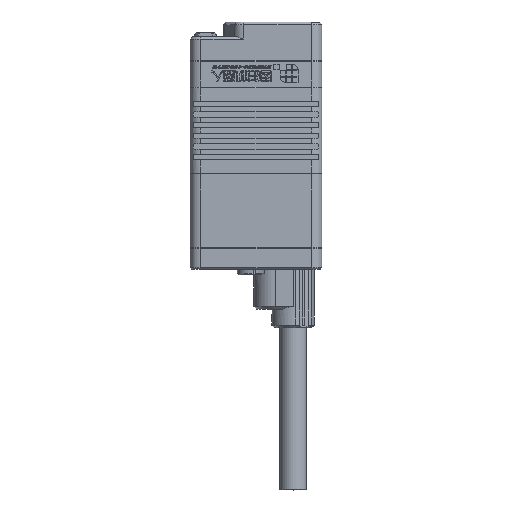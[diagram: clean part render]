
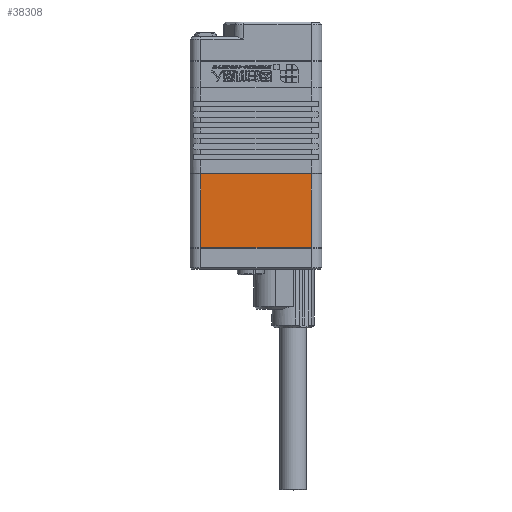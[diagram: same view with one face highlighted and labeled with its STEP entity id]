
A CAD part, top view. The second image highlights one B-rep face of the part: STEP entity #38308.
In plain terms, the highlighted planar face has unit normal (0, 0, 1).
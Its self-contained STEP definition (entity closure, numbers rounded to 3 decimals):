
#597 = CARTESIAN_POINT ( 'NONE',  ( 10.4, -2.15, 5.4 ) ) ;
#2000 = CARTESIAN_POINT ( 'NONE',  ( -10.4, -1.1, 5.4 ) ) ;
#2852 = LINE ( 'NONE', #13008, #42233 ) ;
#3655 = DIRECTION ( 'NONE',  ( 0., 1., 0. ) ) ;
#3892 = EDGE_CURVE ( 'NONE', #31232, #24366, #20416, .T. ) ;
#7788 = VECTOR ( 'NONE', #42747, 1000. ) ;
#9094 = VERTEX_POINT ( 'NONE', #33881 ) ;
#10594 = LINE ( 'NONE', #24032, #16902 ) ;
#13008 = CARTESIAN_POINT ( 'NONE',  ( 10.4, -16.05, 5.4 ) ) ;
#13169 = EDGE_CURVE ( 'NONE', #24366, #9094, #10594, .T. ) ;
#16058 = FACE_OUTER_BOUND ( 'NONE', #27882, .T. ) ;
#16108 = CARTESIAN_POINT ( 'NONE',  ( 10.4, -16.05, 5.4 ) ) ;
#16334 = ORIENTED_EDGE ( 'NONE', *, *, #3892, .T. ) ;
#16902 = VECTOR ( 'NONE', #20747, 1000. ) ;
#18090 = AXIS2_PLACEMENT_3D ( 'NONE', #36104, #36521, #40030 ) ;
#20416 = LINE ( 'NONE', #33826, #33846 ) ;
#20747 = DIRECTION ( 'NONE',  ( -1., 0., 0. ) ) ;
#22723 = ORIENTED_EDGE ( 'NONE', *, *, #34992, .T. ) ;
#24032 = CARTESIAN_POINT ( 'NONE',  ( -10.4, -2.15, 5.4 ) ) ;
#24366 = VERTEX_POINT ( 'NONE', #597 ) ;
#24485 = ORIENTED_EDGE ( 'NONE', *, *, #13169, .T. ) ;
#26399 = PLANE ( 'NONE',  #18090 ) ;
#26638 = DIRECTION ( 'NONE',  ( 1., 0., 0. ) ) ;
#27882 = EDGE_LOOP ( 'NONE', ( #16334, #24485, #22723, #31802 ) ) ;
#29116 = LINE ( 'NONE', #2000, #7788 ) ;
#31232 = VERTEX_POINT ( 'NONE', #16108 ) ;
#31802 = ORIENTED_EDGE ( 'NONE', *, *, #34099, .T. ) ;
#33826 = CARTESIAN_POINT ( 'NONE',  ( 10.4, -1.1, 5.4 ) ) ;
#33846 = VECTOR ( 'NONE', #3655, 1000. ) ;
#33881 = CARTESIAN_POINT ( 'NONE',  ( -10.4, -2.15, 5.4 ) ) ;
#34099 = EDGE_CURVE ( 'NONE', #36327, #31232, #2852, .T. ) ;
#34992 = EDGE_CURVE ( 'NONE', #9094, #36327, #29116, .T. ) ;
#35551 = CARTESIAN_POINT ( 'NONE',  ( -10.4, -16.05, 5.4 ) ) ;
#36104 = CARTESIAN_POINT ( 'NONE',  ( 12.4, -1.1, 5.4 ) ) ;
#36327 = VERTEX_POINT ( 'NONE', #35551 ) ;
#36521 = DIRECTION ( 'NONE',  ( 0., 0., -1. ) ) ;
#38308 = ADVANCED_FACE ( 'NONE', ( #16058 ), #26399, .F. ) ;
#40030 = DIRECTION ( 'NONE',  ( -1., 0., 0. ) ) ;
#42233 = VECTOR ( 'NONE', #26638, 1000. ) ;
#42747 = DIRECTION ( 'NONE',  ( 0., -1., 0. ) ) ;
